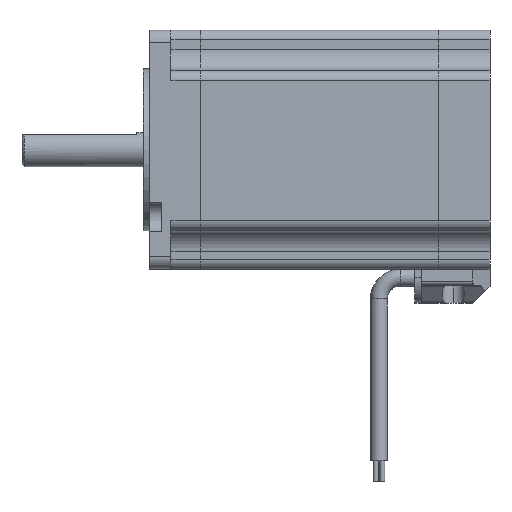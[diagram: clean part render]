
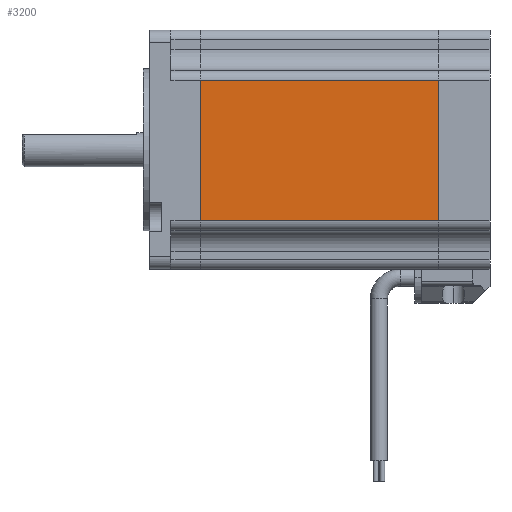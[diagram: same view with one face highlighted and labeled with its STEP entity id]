
A CAD part, left-side view. The second image highlights one B-rep face of the part: STEP entity #3200.
In plain terms, the highlighted planar face has unit normal (-1, 0, 0).
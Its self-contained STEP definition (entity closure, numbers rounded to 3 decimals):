
#79 = VECTOR ( 'NONE', #6091, 1000. ) ;
#213 = DIRECTION ( 'NONE',  ( 0., 0., -1. ) ) ;
#237 = LINE ( 'NONE', #4202, #2236 ) ;
#769 = LINE ( 'NONE', #2679, #79 ) ;
#880 = ORIENTED_EDGE ( 'NONE', *, *, #5425, .F. ) ;
#928 = VERTEX_POINT ( 'NONE', #4212 ) ;
#1406 = PLANE ( 'NONE',  #3578 ) ;
#1755 = EDGE_LOOP ( 'NONE', ( #4930, #5902, #5539, #880 ) ) ;
#1932 = VERTEX_POINT ( 'NONE', #3552 ) ;
#2164 = EDGE_CURVE ( 'NONE', #4205, #928, #2936, .T. ) ;
#2236 = VECTOR ( 'NONE', #213, 1000. ) ;
#2249 = DIRECTION ( 'NONE',  ( 0., 1., 0. ) ) ;
#2307 = CARTESIAN_POINT ( 'NONE',  ( -28.1, -75., 16.3 ) ) ;
#2327 = DIRECTION ( 'NONE',  ( 1., 0., 0. ) ) ;
#2399 = LINE ( 'NONE', #5735, #4343 ) ;
#2560 = FACE_OUTER_BOUND ( 'NONE', #1755, .T. ) ;
#2679 = CARTESIAN_POINT ( 'NONE',  ( -28.1, -75., -16.7 ) ) ;
#2936 = LINE ( 'NONE', #2307, #4178 ) ;
#3200 = ADVANCED_FACE ( 'NONE', ( #2560 ), #1406, .F. ) ;
#3338 = DIRECTION ( 'NONE',  ( 0., 0., -1. ) ) ;
#3552 = CARTESIAN_POINT ( 'NONE',  ( -28.1, -62.99, -16.7 ) ) ;
#3578 = AXIS2_PLACEMENT_3D ( 'NONE', #3912, #2327, #3338 ) ;
#3912 = CARTESIAN_POINT ( 'NONE',  ( -28.1, 5., 25.1 ) ) ;
#4178 = VECTOR ( 'NONE', #2249, 1000. ) ;
#4202 = CARTESIAN_POINT ( 'NONE',  ( -28.1, -62.99, 25.1 ) ) ;
#4205 = VERTEX_POINT ( 'NONE', #5314 ) ;
#4212 = CARTESIAN_POINT ( 'NONE',  ( -28.1, -7.001, 16.3 ) ) ;
#4343 = VECTOR ( 'NONE', #6229, 1000. ) ;
#4891 = EDGE_CURVE ( 'NONE', #5186, #928, #2399, .T. ) ;
#4930 = ORIENTED_EDGE ( 'NONE', *, *, #5430, .F. ) ;
#5186 = VERTEX_POINT ( 'NONE', #6386 ) ;
#5314 = CARTESIAN_POINT ( 'NONE',  ( -28.1, -62.99, 16.3 ) ) ;
#5425 = EDGE_CURVE ( 'NONE', #1932, #5186, #769, .T. ) ;
#5430 = EDGE_CURVE ( 'NONE', #4205, #1932, #237, .T. ) ;
#5539 = ORIENTED_EDGE ( 'NONE', *, *, #4891, .F. ) ;
#5735 = CARTESIAN_POINT ( 'NONE',  ( -28.1, -7.001, 25.1 ) ) ;
#5902 = ORIENTED_EDGE ( 'NONE', *, *, #2164, .T. ) ;
#6091 = DIRECTION ( 'NONE',  ( 0., 1., 0. ) ) ;
#6229 = DIRECTION ( 'NONE',  ( 0., 0., 1. ) ) ;
#6386 = CARTESIAN_POINT ( 'NONE',  ( -28.1, -7.001, -16.7 ) ) ;
